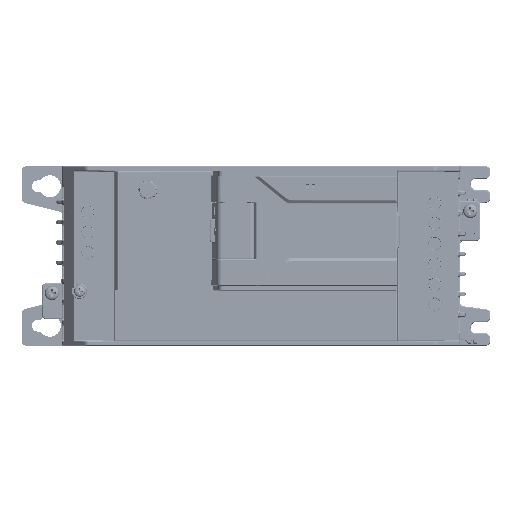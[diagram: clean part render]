
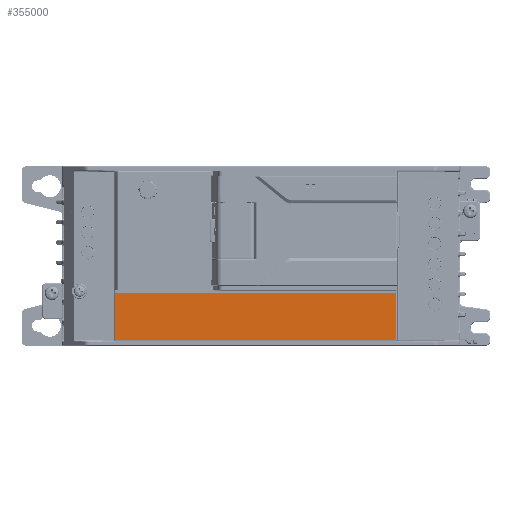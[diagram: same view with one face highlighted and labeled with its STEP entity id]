
A CAD part, left-side view. The second image highlights one B-rep face of the part: STEP entity #355000.
In plain terms, the highlighted planar face has unit normal (-1, 0, 0).
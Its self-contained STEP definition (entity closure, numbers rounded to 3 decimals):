
#265290=CARTESIAN_POINT('',(-99.1,-68.01,26.583));
#265300=DIRECTION('',(0.,0.,1.));
#265301=VECTOR('',#265300,23.94);
#265302=CARTESIAN_POINT('',(-99.1,-68.01,2.642));
#265303=LINE('',#265302,#265301);
#265304=CARTESIAN_POINT('',(-99.1,73.159,26.583));
#265318=DIRECTION('',(0.,1.,0.));
#265319=VECTOR('',#265318,141.169);
#265320=CARTESIAN_POINT('',(-99.1,-68.01,26.583));
#265321=LINE('',#265320,#265319);
#265326=DIRECTION('',(0.,-1.,0.));
#265327=VECTOR('',#265326,141.169);
#265328=CARTESIAN_POINT('',(-99.1,73.159,2.642));
#265329=LINE('',#265328,#265327);
#265365=DIRECTION('',(0.,0.,-1.));
#265366=VECTOR('',#265365,23.94);
#265367=CARTESIAN_POINT('',(-99.1,73.159,26.583));
#265368=LINE('',#265367,#265366);
#326414=VERTEX_POINT('',#265290);
#326415=CARTESIAN_POINT('',(-99.1,-68.01,2.642));
#326416=VERTEX_POINT('',#326415);
#326417=VERTEX_POINT('',#265304);
#326418=CARTESIAN_POINT('',(-99.1,73.159,2.642));
#326419=VERTEX_POINT('',#326418);
#354987=CARTESIAN_POINT('',(-99.1,2.574,14.612));
#354988=DIRECTION('',(1.,0.,0.));
#354989=DIRECTION('',(0.,0.,1.));
#354990=AXIS2_PLACEMENT_3D('',#354987,#354988,#354989);
#354991=PLANE('',#354990);
#354992=ORIENTED_EDGE('',*,*,#354965,.F.);
#354994=ORIENTED_EDGE('',*,*,#354993,.F.);
#354996=ORIENTED_EDGE('',*,*,#354995,.F.);
#354997=ORIENTED_EDGE('',*,*,#354976,.F.);
#354998=EDGE_LOOP('',(#354992,#354994,#354996,#354997));
#354999=FACE_OUTER_BOUND('',#354998,.F.);
#355000=ADVANCED_FACE('',(#354999),#354991,.F.);
#354965=EDGE_CURVE('',#326416,#326414,#265303,.T.);
#354976=EDGE_CURVE('',#326414,#326417,#265321,.T.);
#354993=EDGE_CURVE('',#326419,#326416,#265329,.T.);
#354995=EDGE_CURVE('',#326417,#326419,#265368,.T.);
